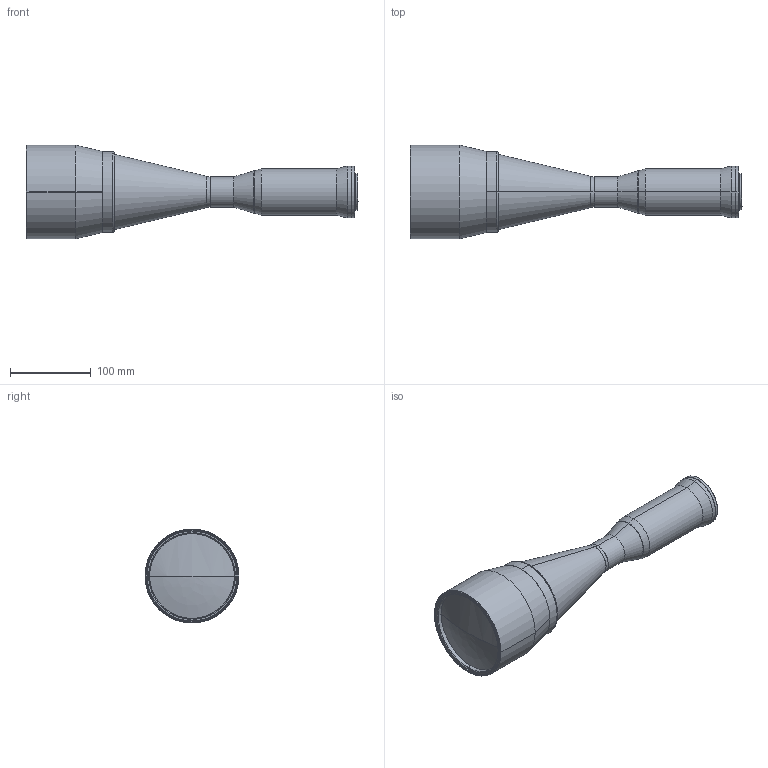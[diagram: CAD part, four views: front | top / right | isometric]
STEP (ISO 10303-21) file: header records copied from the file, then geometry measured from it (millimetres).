
FILE_DESCRIPTION(('LS-TCL-0202'),'2;1');
FILE_NAME('LS-TCL-0202.stp','2026-10-15T21:54:36',('LumaSpec Vision'),('LumaSpec Vision'),'LumaSpec Vision','LumaSpec Vision','');
FILE_SCHEMA(('AUTOMOTIVE_DESIGN { 1 0 10303 214 1 1 1 1 }'));
Length unit declared in the file: millimetre
Products named in the file (91): LumaSpec Vision
Assembly tree (90 placements, depth 2):
  LumaSpec Vision
    LumaSpec Vision
    LumaSpec Vision
    LumaSpec Vision
    LumaSpec Vision
    LumaSpec Vision
    LumaSpec Vision
    LumaSpec Vision
    LumaSpec Vision
    LumaSpec Vision
    LumaSpec Vision
    LumaSpec Vision
    LumaSpec Vision
    LumaSpec Vision
    LumaSpec Vision
    LumaSpec Vision
    LumaSpec Vision
    LumaSpec Vision
    LumaSpec Vision
    LumaSpec Vision
    LumaSpec Vision
    LumaSpec Vision
    LumaSpec Vision
    LumaSpec Vision
    LumaSpec Vision
    LumaSpec Vision
    LumaSpec Vision
    LumaSpec Vision
    LumaSpec Vision
    LumaSpec Vision
    LumaSpec Vision
    LumaSpec Vision
    LumaSpec Vision
    LumaSpec Vision
    LumaSpec Vision
    LumaSpec Vision
    LumaSpec Vision
    LumaSpec Vision
    LumaSpec Vision
    LumaSpec Vision
    LumaSpec Vision
    LumaSpec Vision
    LumaSpec Vision
    LumaSpec Vision
    LumaSpec Vision
    LumaSpec Vision
    LumaSpec Vision
    LumaSpec Vision
    LumaSpec Vision
    LumaSpec Vision
    LumaSpec Vision
    LumaSpec Vision
    LumaSpec Vision
    LumaSpec Vision
    LumaSpec Vision
    LumaSpec Vision
    LumaSpec Vision
    LumaSpec Vision
    LumaSpec Vision
    LumaSpec Vision
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Bounding box: 410.75 x 116 x 116 mm (x, y, z)
Surface area: 131207.2 mm2 (no closed solid volume)
Topology: 0 solids, 90 shells, 90 faces, 1809 edges, 1806 vertices
Faces by surface type: revolution 62, bspline 28
Entity records: 29748 total; most frequent: CARTESIAN_POINT 12101, B_SPLINE_CURVE_WITH_KNOTS 3274, ORIENTED_EDGE 1806, EDGE_CURVE 1806, VERTEX_POINT 1806, SURFACE_CURVE 1806, PCURVE 1806, DEFINITIONAL_REPRESENTATION 1806
